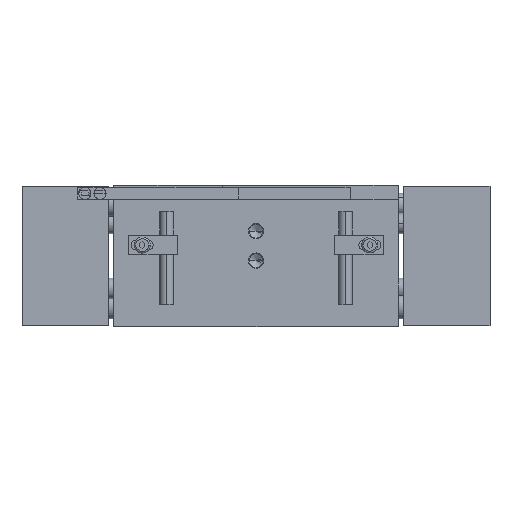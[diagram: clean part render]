
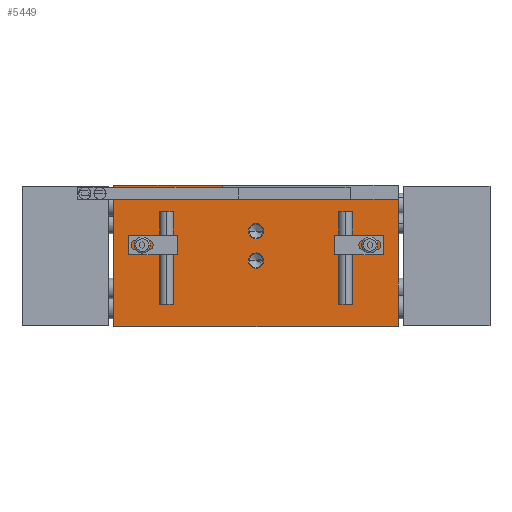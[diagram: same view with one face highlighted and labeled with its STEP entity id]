
A CAD part, top view. The second image highlights one B-rep face of the part: STEP entity #5449.
In plain terms, the highlighted planar face has unit normal (0, 0, 1).
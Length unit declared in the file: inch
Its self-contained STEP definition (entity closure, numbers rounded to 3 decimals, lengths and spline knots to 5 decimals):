
#203 = CARTESIAN_POINT ( 'NONE',  ( -1.64, 0.8125, 0.625 ) ) ;
#228 = VERTEX_POINT ( 'NONE', #3136 ) ;
#249 = VECTOR ( 'NONE', #279, 39.37008 ) ;
#279 = DIRECTION ( 'NONE',  ( 0., -1., 0. ) ) ;
#296 = CARTESIAN_POINT ( 'NONE',  ( -0.39, 0.6525, 0.625 ) ) ;
#430 = ORIENTED_EDGE ( 'NONE', *, *, #6263, .T. ) ;
#476 = VERTEX_POINT ( 'NONE', #5010 ) ;
#520 = CARTESIAN_POINT ( 'NONE',  ( 0.0895, -0.055, 0.625 ) ) ;
#534 = EDGE_CURVE ( 'NONE', #476, #2608, #3577, .T. ) ;
#620 = ORIENTED_EDGE ( 'NONE', *, *, #5671, .T. ) ;
#695 = EDGE_CURVE ( 'NONE', #2608, #476, #3003, .T. ) ;
#763 = DIRECTION ( 'NONE',  ( 0., 0., -1. ) ) ;
#771 = CARTESIAN_POINT ( 'NONE',  ( -0.39, 0.8125, 0.625 ) ) ;
#779 = CARTESIAN_POINT ( 'NONE',  ( 1.64, 0.8125, 0.625 ) ) ;
#842 = VECTOR ( 'NONE', #4667, 39.37008 ) ;
#943 = CARTESIAN_POINT ( 'NONE',  ( 1.64, -0.8125, 0.625 ) ) ;
#1021 = VERTEX_POINT ( 'NONE', #771 ) ;
#1033 = CARTESIAN_POINT ( 'NONE',  ( -1.64, 0.8125, 0.625 ) ) ;
#1110 = LINE ( 'NONE', #6221, #4252 ) ;
#1235 = DIRECTION ( 'NONE',  ( 0., 1., 0. ) ) ;
#1243 = EDGE_LOOP ( 'NONE', ( #2327, #4076 ) ) ;
#1245 = AXIS2_PLACEMENT_3D ( 'NONE', #3353, #7767, #3992 ) ;
#1246 = VECTOR ( 'NONE', #1466, 39.37008 ) ;
#1376 = DIRECTION ( 'NONE',  ( 1., 0., 0. ) ) ;
#1465 = CARTESIAN_POINT ( 'NONE',  ( -1.64, -0.8125, 0.625 ) ) ;
#1466 = DIRECTION ( 'NONE',  ( 0., -1., 0. ) ) ;
#1603 = LINE ( 'NONE', #779, #7896 ) ;
#1699 = VERTEX_POINT ( 'NONE', #4993 ) ;
#1761 = AXIS2_PLACEMENT_3D ( 'NONE', #5400, #4051, #2964 ) ;
#1800 = LINE ( 'NONE', #1465, #6606 ) ;
#2038 = EDGE_CURVE ( 'NONE', #1021, #4860, #3177, .T. ) ;
#2122 = EDGE_LOOP ( 'NONE', ( #5218, #5904, #2208, #7737, #4189, #620 ) ) ;
#2124 = CARTESIAN_POINT ( 'NONE',  ( 0.0895, 0.285, 0.625 ) ) ;
#2204 = CARTESIAN_POINT ( 'NONE',  ( -0.39, 0.8125, 0.625 ) ) ;
#2208 = ORIENTED_EDGE ( 'NONE', *, *, #5878, .T. ) ;
#2281 = CARTESIAN_POINT ( 'NONE',  ( -0.39, 0.6525, 0.625 ) ) ;
#2307 = LINE ( 'NONE', #296, #842 ) ;
#2327 = ORIENTED_EDGE ( 'NONE', *, *, #695, .T. ) ;
#2608 = VERTEX_POINT ( 'NONE', #520 ) ;
#2689 = FACE_BOUND ( 'NONE', #7308, .T. ) ;
#2724 = VERTEX_POINT ( 'NONE', #2124 ) ;
#2775 = EDGE_CURVE ( 'NONE', #6694, #5361, #1800, .T. ) ;
#2925 = DIRECTION ( 'NONE',  ( 1., 0., 0. ) ) ;
#2964 = DIRECTION ( 'NONE',  ( 1., 0., 0. ) ) ;
#3003 = CIRCLE ( 'NONE', #1761, 0.0895 ) ;
#3064 = DIRECTION ( 'NONE',  ( 0., 0., -1. ) ) ;
#3080 = AXIS2_PLACEMENT_3D ( 'NONE', #6830, #3064, #7472 ) ;
#3136 = CARTESIAN_POINT ( 'NONE',  ( -0.0895, 0.285, 0.625 ) ) ;
#3177 = LINE ( 'NONE', #2204, #249 ) ;
#3211 = EDGE_CURVE ( 'NONE', #6775, #6694, #6250, .T. ) ;
#3353 = CARTESIAN_POINT ( 'NONE',  ( 0., 0.285, 0.625 ) ) ;
#3577 = CIRCLE ( 'NONE', #5288, 0.0895 ) ;
#3889 = CARTESIAN_POINT ( 'NONE',  ( 0., -0.055, 0.625 ) ) ;
#3914 = ORIENTED_EDGE ( 'NONE', *, *, #6573, .T. ) ;
#3992 = DIRECTION ( 'NONE',  ( 1., 0., 0. ) ) ;
#4051 = DIRECTION ( 'NONE',  ( 0., 0., -1. ) ) ;
#4076 = ORIENTED_EDGE ( 'NONE', *, *, #534, .T. ) ;
#4134 = PLANE ( 'NONE',  #4797 ) ;
#4189 = ORIENTED_EDGE ( 'NONE', *, *, #2775, .T. ) ;
#4252 = VECTOR ( 'NONE', #1235, 39.37008 ) ;
#4351 = FACE_BOUND ( 'NONE', #1243, .T. ) ;
#4441 = EDGE_CURVE ( 'NONE', #4860, #1699, #2307, .T. ) ;
#4490 = DIRECTION ( 'NONE',  ( -1., 0., 0. ) ) ;
#4667 = DIRECTION ( 'NONE',  ( 1., 0., 0. ) ) ;
#4797 = AXIS2_PLACEMENT_3D ( 'NONE', #5396, #6663, #2925 ) ;
#4860 = VERTEX_POINT ( 'NONE', #2281 ) ;
#4934 = DIRECTION ( 'NONE',  ( 1., 0., 0. ) ) ;
#4993 = CARTESIAN_POINT ( 'NONE',  ( 1.64, 0.6525, 0.625 ) ) ;
#5010 = CARTESIAN_POINT ( 'NONE',  ( -0.0895, -0.055, 0.625 ) ) ;
#5218 = ORIENTED_EDGE ( 'NONE', *, *, #4441, .F. ) ;
#5288 = AXIS2_PLACEMENT_3D ( 'NONE', #3889, #763, #4934 ) ;
#5361 = VERTEX_POINT ( 'NONE', #943 ) ;
#5396 = CARTESIAN_POINT ( 'NONE',  ( -1.64, -0.8125, 0.625 ) ) ;
#5400 = CARTESIAN_POINT ( 'NONE',  ( 0., -0.055, 0.625 ) ) ;
#5449 = ADVANCED_FACE ( 'NONE', ( #4351, #2689, #6036 ), #4134, .T. ) ;
#5671 = EDGE_CURVE ( 'NONE', #5361, #1699, #1110, .T. ) ;
#5878 = EDGE_CURVE ( 'NONE', #1021, #6775, #1603, .T. ) ;
#5904 = ORIENTED_EDGE ( 'NONE', *, *, #2038, .F. ) ;
#6036 = FACE_OUTER_BOUND ( 'NONE', #2122, .T. ) ;
#6221 = CARTESIAN_POINT ( 'NONE',  ( 1.64, -0.8125, 0.625 ) ) ;
#6250 = LINE ( 'NONE', #203, #1246 ) ;
#6263 = EDGE_CURVE ( 'NONE', #228, #2724, #6600, .T. ) ;
#6573 = EDGE_CURVE ( 'NONE', #2724, #228, #8089, .T. ) ;
#6600 = CIRCLE ( 'NONE', #3080, 0.0895 ) ;
#6606 = VECTOR ( 'NONE', #1376, 39.37008 ) ;
#6663 = DIRECTION ( 'NONE',  ( 0., 0., 1. ) ) ;
#6694 = VERTEX_POINT ( 'NONE', #7873 ) ;
#6775 = VERTEX_POINT ( 'NONE', #1033 ) ;
#6830 = CARTESIAN_POINT ( 'NONE',  ( 0., 0.285, 0.625 ) ) ;
#7308 = EDGE_LOOP ( 'NONE', ( #3914, #430 ) ) ;
#7472 = DIRECTION ( 'NONE',  ( 1., 0., 0. ) ) ;
#7737 = ORIENTED_EDGE ( 'NONE', *, *, #3211, .T. ) ;
#7767 = DIRECTION ( 'NONE',  ( 0., 0., -1. ) ) ;
#7873 = CARTESIAN_POINT ( 'NONE',  ( -1.64, -0.8125, 0.625 ) ) ;
#7896 = VECTOR ( 'NONE', #4490, 39.37008 ) ;
#8089 = CIRCLE ( 'NONE', #1245, 0.0895 ) ;
